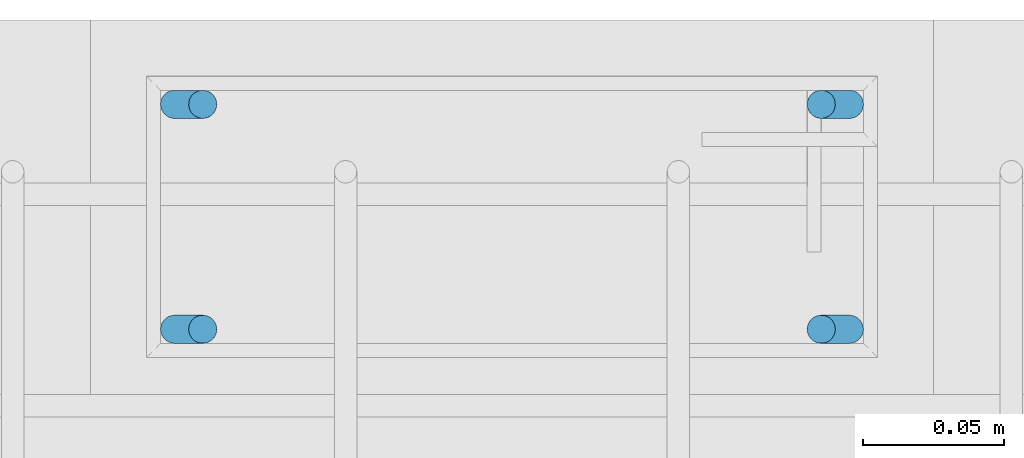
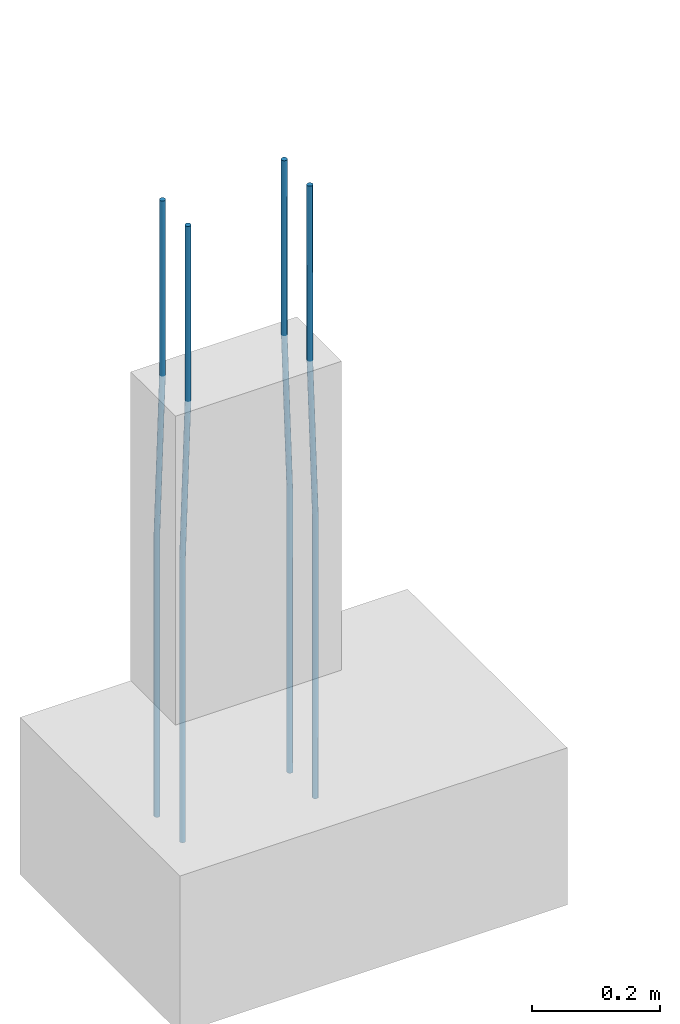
# One storey, part 51 of 119: 4 reinforcing bars.
"""IFC4 building model written with IfcOpenShell, lengths in centimetres."""

from ifc_helpers import new_model, entity, si_unit, derived_unit, frame, origin_with_axes, place, context, project, spatial, element, save


model = new_model("IFC4")

# Units and contexts
model_context = context("Model", 3, precision=1e-05, world=origin_with_axes(), identifier="Body")
ifc_project = project(units=[si_unit("LENGTHUNIT", "METRE", prefix="CENTI"), si_unit("VOLUMEUNIT", "CUBIC_METRE"), si_unit("AREAUNIT", "SQUARE_METRE"), si_unit("POWERUNIT", "WATT"), si_unit("LUMINOUSFLUXUNIT", "LUMEN"), si_unit("ELECTRICCURRENTUNIT", "AMPERE"), si_unit("PRESSUREUNIT", "PASCAL", prefix="KILO"), si_unit("MASSUNIT", "GRAM", prefix="KILO"), si_unit("PLANEANGLEUNIT", "RADIAN"), derived_unit("VOLUMETRICFLOWRATEUNIT", [(si_unit("LENGTHUNIT", "METRE"), 3), (si_unit("TIMEUNIT", "SECOND"), -1)])], contexts=[model_context])

# Site, building, storey
site_placement = place(None, frame((-4000.0, 0.0, 0.0), z_axis=(0.0, 0.0, 1.0), x_axis=(1.0, 0.0, 0.0)))
site = spatial("IfcSite", under=ifc_project, at=site_placement, Name="PADRÃO")
building_placement = place(site_placement, frame((0.0, 0.0, -14.0)))
building = spatial("IfcBuilding", under=site, at=building_placement, Name="CRECHE PRÉ-ESCOLA TIPO 2")
storey_placement = place(building_placement, origin_with_axes())
storey = spatial("IfcBuildingStorey", under=building, at=storey_placement, Name="FUNDAÇÃO", CompositionType="ELEMENT", Elevation=-14.0)

# Reinforcing bars
reinforcing_bar_1_placement = place(storey_placement, frame((5.0, 4492.5, 33.3573001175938), z_axis=(0.0, 0.0, 1.0), x_axis=(1.0, 0.0, 0.0)))
element("IfcReinforcingBar", 1, at=reinforcing_bar_1_placement, inside=storey, Name="P1 - Longitudinal", BarLength=0.0, CrossSectionArea=7.853981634e-05, NominalDiameter=1.0, PredefinedType="MAIN", context=model_context, shape_type="AdvancedSweptSolid", body=[
    entity("IfcSweptDiskSolid", entity("IfcCompositeCurve", [entity("IfcCompositeCurveSegment", "CONTINUOUS", True, entity("IfcPolyline", [entity("IfcCartesianPoint", [-0.5, 0.0, -117.357300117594]), entity("IfcCartesianPoint", [-0.5, 0.0, -63.3573001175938])])), entity("IfcCompositeCurveSegment", "CONTINUOUS", True, entity("IfcPolyline", [entity("IfcCartesianPoint", [-0.5, 0.0, -63.3573001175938]), entity("IfcCartesianPoint", [0.5, 0.0, -33.3573001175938])])), entity("IfcCompositeCurveSegment", "CONTINUOUS", True, entity("IfcPolyline", [entity("IfcCartesianPoint", [0.5, 0.0, -33.3573001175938]), entity("IfcCartesianPoint", [0.5, 0.0, 0.0])]))], False), 0.5),
])
for number, where, z_axis, x_axis, name in (
    (2, (28.0, 4492.5, 33.3573001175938), (0.0, 0.0, 1.0), (1.0, 0.0, 0.0), "P1 - Longitudinal"),
    (3, (28.0, 4484.5, 33.3573001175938), (0.0, 0.0, 1.0), (1.0, 0.0, 0.0), "P1 - Longitudinal"),
):
    element("IfcReinforcingBar", number, at=place(storey_placement, frame(where, z_axis=z_axis, x_axis=x_axis)), inside=storey, Name=name, BarLength=0.0, CrossSectionArea=7.853981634e-05, NominalDiameter=1.0, PredefinedType="MAIN", context=model_context, shape_type="AdvancedSweptSolid", body=[
        entity("IfcSweptDiskSolid", entity("IfcCompositeCurve", [entity("IfcCompositeCurveSegment", "CONTINUOUS", True, entity("IfcPolyline", [entity("IfcCartesianPoint", [0.5, 0.0, -117.357300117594]), entity("IfcCartesianPoint", [0.5, 0.0, -63.3573001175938])])), entity("IfcCompositeCurveSegment", "CONTINUOUS", True, entity("IfcPolyline", [entity("IfcCartesianPoint", [0.5, 0.0, -63.3573001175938]), entity("IfcCartesianPoint", [-0.5, 0.0, -33.3573001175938])])), entity("IfcCompositeCurveSegment", "CONTINUOUS", True, entity("IfcPolyline", [entity("IfcCartesianPoint", [-0.5, 0.0, -33.3573001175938]), entity("IfcCartesianPoint", [-0.5, 0.0, 0.0])]))], False), 0.5),
    ])
reinforcing_bar_2_placement = place(storey_placement, frame((5.0, 4484.5, 33.3573001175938), z_axis=(0.0, 0.0, 1.0), x_axis=(1.0, 0.0, 0.0)))
element("IfcReinforcingBar", 4, at=reinforcing_bar_2_placement, inside=storey, Name="P1 - Longitudinal", BarLength=0.0, CrossSectionArea=7.853981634e-05, NominalDiameter=1.0, PredefinedType="MAIN", context=model_context, shape_type="AdvancedSweptSolid", body=[
    entity("IfcSweptDiskSolid", entity("IfcCompositeCurve", [entity("IfcCompositeCurveSegment", "CONTINUOUS", True, entity("IfcPolyline", [entity("IfcCartesianPoint", [-0.5, 0.0, -117.357300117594]), entity("IfcCartesianPoint", [-0.5, 0.0, -63.3573001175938])])), entity("IfcCompositeCurveSegment", "CONTINUOUS", True, entity("IfcPolyline", [entity("IfcCartesianPoint", [-0.5, 0.0, -63.3573001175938]), entity("IfcCartesianPoint", [0.5, 0.0, -33.3573001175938])])), entity("IfcCompositeCurveSegment", "CONTINUOUS", True, entity("IfcPolyline", [entity("IfcCartesianPoint", [0.5, 0.0, -33.3573001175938]), entity("IfcCartesianPoint", [0.5, 0.0, 0.0])]))], False), 0.5),
])

save(model, "model.ifc")
